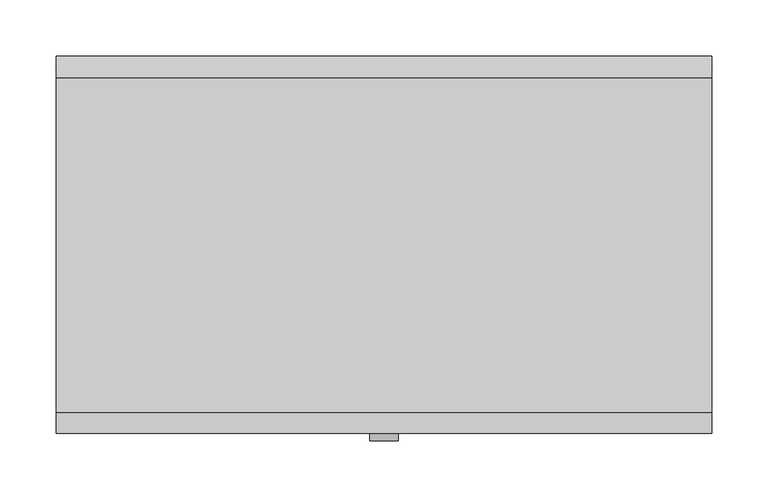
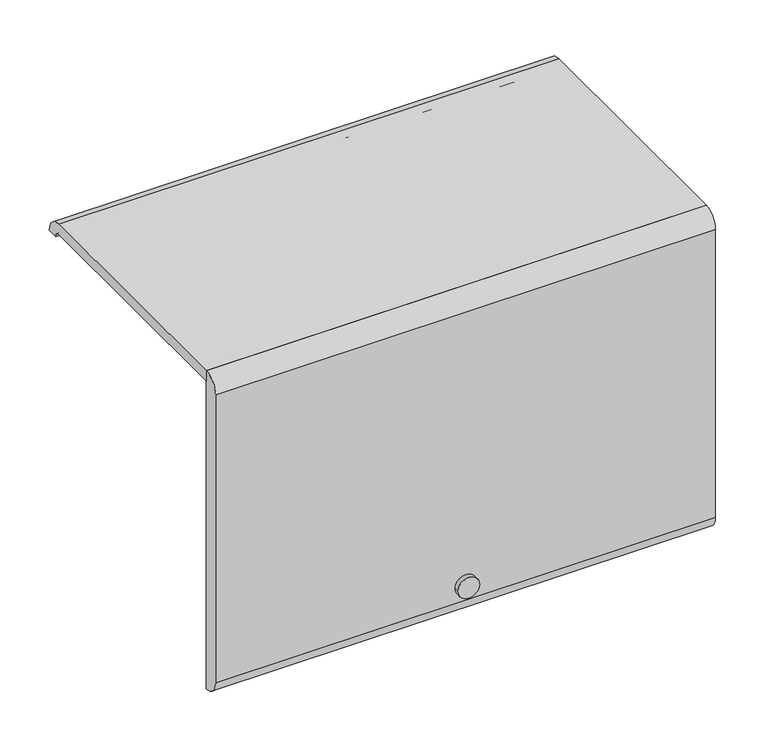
"""IFC4 building model written with IfcOpenShell, lengths in millimetres: furniture geometry."""

from ifc_helpers import new_model, si_unit, point, frame, frame_2d, origin, place, context, project, spatial, polyline, circle_curve, trimmed, segment, composite_curve, outline, extrude, source, transform, mapped, element, save


def furniture_a9d36921(model_context):
    return source(origin(), model_context, "Body", "SweptSolid", [
        extrude(outline(composite_curve([segment(polyline([(-136.525, 2084.96154), (-136.525, 2097.66154), (161.925, 2097.66154)]), True, "CONTINUOUS"), segment(trimmed(circle_curve(frame_2d((161.925, 2078.61154)), 19.05), [point((161.925, 2097.66154))], [point((180.975, 2078.61154))], False, "CARTESIAN"), True, "CONTINUOUS"), segment(polyline([(180.975, 2078.61154), (168.275, 2078.61154)]), True, "CONTINUOUS"), segment(trimmed(circle_curve(frame_2d((161.925, 2078.61154)), 6.35), [point((168.275, 2078.61154))], [point((161.925, 2084.96154))], True, "CARTESIAN"), True, "CONTINUOUS"), segment(polyline([(161.925, 2084.96154), (-136.525, 2084.96154)]), True, "CONTINUOUS")], self_intersect=False)), frame((-292.1, 0.0, 0.0), z_axis=(1.0, 0.0, 0.0), x_axis=(0.0, 1.0, 0.0)), (0.0, 0.0, 1.0), 584.2),
        extrude(outline(composite_curve([segment(trimmed(circle_curve(frame_2d((-136.525, 2078.61154)), 19.05), [point((-155.575, 2078.61154))], [point((-136.525, 2097.66154))], False, "CARTESIAN"), True, "CONTINUOUS"), segment(polyline([(-136.525, 2097.66154), (-136.525, 1703.96154)]), True, "CONTINUOUS"), segment(trimmed(circle_curve(frame_2d((-136.525, 1723.01154)), 19.05), [point((-136.525, 1703.96154))], [point((-155.575, 1723.01154))], False, "CARTESIAN"), True, "CONTINUOUS"), segment(polyline([(-155.575, 1723.01154), (-155.575, 2078.61154)]), True, "CONTINUOUS")], self_intersect=False)), frame((-292.1, 0.0, 0.0), z_axis=(1.0, 0.0, 0.0), x_axis=(0.0, 1.0, 0.0)), (0.0, 0.0, 1.0), 584.2),
        extrude(outline(composite_curve([segment(trimmed(circle_curve(frame_2d((1742.0234306, 0.0201199)), 12.7253951), [point((1742.0234306, 12.745515))], [point((1742.0234306, -12.7052752))], False, "CARTESIAN"), True, "CONTINUOUS"), segment(trimmed(circle_curve(frame_2d((1742.0234306, 0.0201199)), 12.7253951), [point((1742.0234306, -12.7052752))], [point((1742.0234306, 12.745515))], False, "CARTESIAN"), True, "CONTINUOUS")], self_intersect=False)), frame((0.0, -161.925, 0.0), z_axis=(0.0, 1.0, 0.0), x_axis=(0.0, 0.0, 1.0)), (0.0, 0.0, 1.0), 6.35),
    ])


if __name__ == "__main__":
    model = new_model("IFC4")
    model_context = context("Model", 3, world=origin())
    ifc_project = project(units=[si_unit("LENGTHUNIT", "METRE", prefix="MILLI")], contexts=[model_context])
    site = spatial("IfcSite", under=ifc_project)
    building = spatial("IfcBuilding", under=site)
    placement = place(None, origin())
    furniture_shape = furniture_a9d36921(model_context)
    element("IfcFurniture", 1, ObjectType="HermanMiller_ActionOffice_A3313_B-StyleFlipperDoor : Paint 15-1/2\"H x 13\"D x 24\"W", at=placement, inside=building, context=model_context, shape_type="MappedRepresentation", body=[
        mapped(furniture_shape, transform((0.0, 0.0, 0.0), x_axis=(1.0, 0.0, 0.0), y_axis=(0.0, 1.0, 0.0), z_axis=(0.0, 0.0, 1.0))),
    ])
    save(model, "model.ifc")
